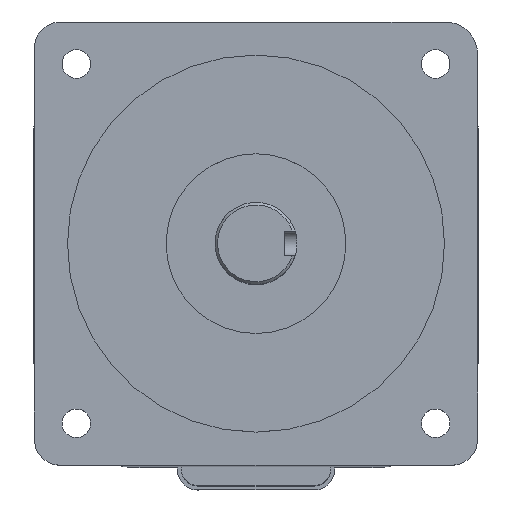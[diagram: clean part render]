
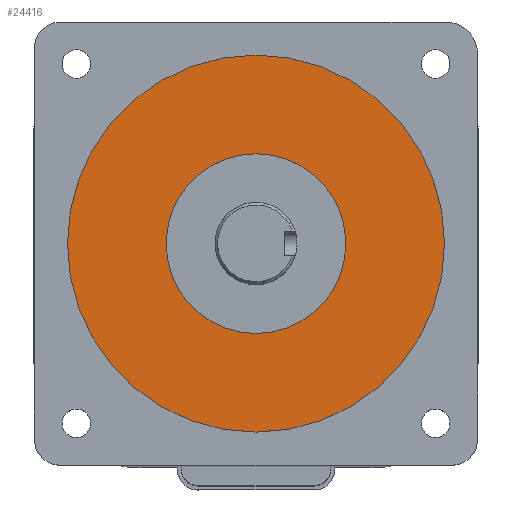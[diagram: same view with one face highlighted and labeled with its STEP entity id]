
A CAD part, top view. The second image highlights one B-rep face of the part: STEP entity #24416.
In plain terms, the highlighted planar face has unit normal (0, 0, 1).
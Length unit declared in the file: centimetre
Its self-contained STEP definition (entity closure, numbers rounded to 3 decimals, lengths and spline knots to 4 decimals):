
#7101=VERTEX_POINT('',#55538);
#7102=VERTEX_POINT('',#55541);
#9704=EDGE_CURVE('',#7101,#7101,#33185,.T.);
#9705=EDGE_CURVE('',#7102,#7102,#33186,.T.);
#13692=ORIENTED_EDGE('',*,*,#9705,.F.);
#13693=ORIENTED_EDGE('',*,*,#9704,.F.);
#21289=EDGE_LOOP('',(#13692));
#21290=EDGE_LOOP('',(#13693));
#22863=FACE_BOUND('',#21289,.T.);
#22864=FACE_BOUND('',#21290,.T.);
#24416=ADVANCED_FACE('',(#22863,#22864),#53642,.T.);
#33185=CIRCLE('',#49126,3.6513);
#33186=CIRCLE('',#49128,1.7399);
#49126=AXIS2_PLACEMENT_3D('',#55537,#74805,#74806);
#49128=AXIS2_PLACEMENT_3D('',#55540,#74809,#74810);
#49129=AXIS2_PLACEMENT_3D('',#55542,#74811,$);
#53642=PLANE('',#49129);
#55537=CARTESIAN_POINT('',(0.,0.,0.15));
#55538=CARTESIAN_POINT('',(3.6513,0.,0.15));
#55540=CARTESIAN_POINT('',(0.,0.,0.15));
#55541=CARTESIAN_POINT('',(1.7399,0.,0.15));
#55542=CARTESIAN_POINT('',(0.,0.,0.15));
#74805=DIRECTION('',(0.,0.,-1.));
#74806=DIRECTION('',(3.651,0.,0.));
#74809=DIRECTION('',(0.,0.,1.));
#74810=DIRECTION('',(1.74,0.,0.));
#74811=DIRECTION('',(0.,0.,1.));
